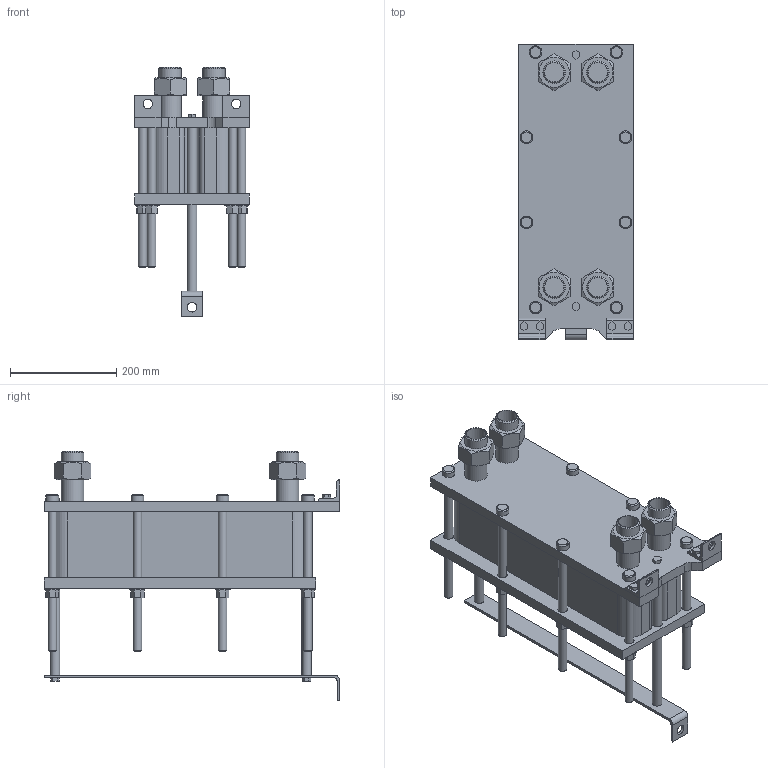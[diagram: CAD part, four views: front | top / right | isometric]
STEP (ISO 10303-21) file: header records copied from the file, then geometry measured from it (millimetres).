
FILE_DESCRIPTION(/* description */ (''),/* implementation_level */ '2;1');
FILE_NAME(/* name */ 'C:\Users\zhuro\Desktop\ENCO\TO\ЭН-004\ЭН-0,5-004-40-1.stp',/* time_stamp */ '2022-06-06T10:46:17+03:00',/* author */ ('zhuro'),/* organization */ (''),/* preprocessor_version */ 'ST-DEVELOPER v18.1',/* originating_system */ 'Autodesk Inventor 2022',/* authorisation */ '');
FILE_SCHEMA (('AUTOMOTIVE_DESIGN { 1 0 10303 214 3 1 1 }'));
Length unit declared in the file: millimetre
Products named in the file (1): ЭН-0,5-004-40-1
Bounding box: 216 x 555 x 469 mm (x, y, z)
Volume: 14843418.2 mm3; surface area: 1227508.4 mm2
Topology: 40 solids, 40 shells, 403 faces, 865 edges, 574 vertices
Faces by surface type: plane 272, cylinder 103, cone 28
Full cylindrical faces by diameter (mm): 10 x4, 16 x16, 18 x29, 20 x2, 24 x8, 28 x8, 36.3 x5, 42.3 x9
Entity records: 11137 total; most frequent: CARTESIAN_POINT 1939, DIRECTION 1879, ORIENTED_EDGE 1730, EDGE_CURVE 865, AXIS2_PLACEMENT_3D 658, VERTEX_POINT 574, LINE 563, VECTOR 563
